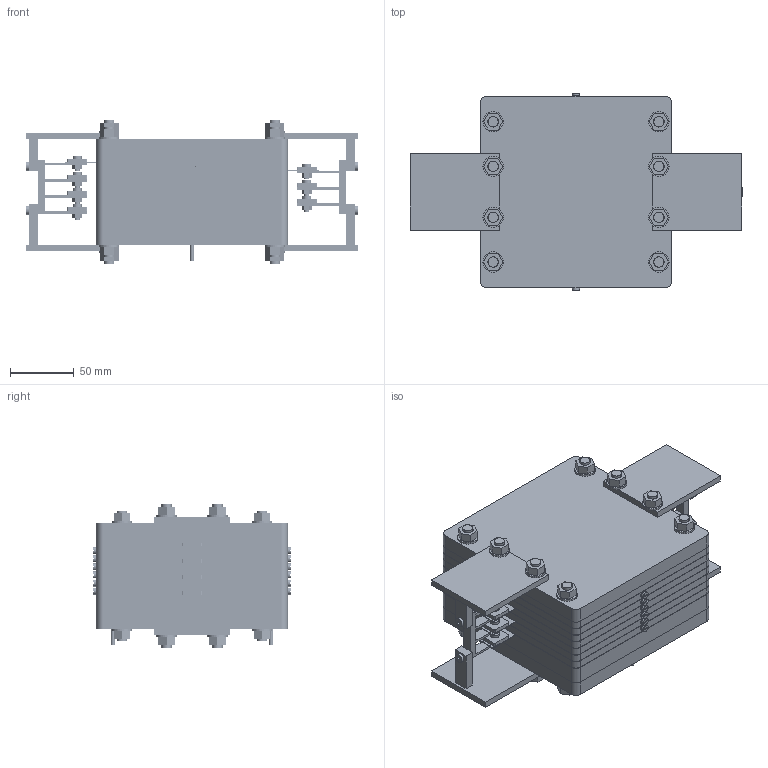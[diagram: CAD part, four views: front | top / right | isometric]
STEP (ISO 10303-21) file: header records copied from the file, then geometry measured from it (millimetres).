
FILE_DESCRIPTION(('FreeCAD Model'),'2;1');
FILE_NAME('Open CASCADE Shape Model','2026-10-30T14:49:04',('Author'),( ''),'Open CASCADE STEP processor 7.8','FreeCAD','Unknown');
FILE_SCHEMA(('AUTOMOTIVE_DESIGN { 1 0 10303 214 1 1 1 1 }'));
Length unit declared in the file: millimetre
Products named in the file (30): 7 片紧凑板框电堆 / Internal parallel manifolds; KP-201 | KP-201 | Front dry endplate with manifold tool access; KP-202 | KP-202 | Front manifold insulator; KS-102-COMP; KP-602 | KP-602 | Cathode precision-film carrier; KP-102 | KP-102 | Cathode electrode; KF-101 | KF-101 | Internal-manifold flow frame KF-101; KS-101-COMP; KH-901 | KH-901 | M4x0.7 nominal cross-drill plug; KH-902 | KH-902 | Cross-drill plug washer; KP-601 | KP-601 | Anode precision-film carrier; KP-101 | KP-101 | Anode electrode; KP-203 | KP-203 | Rear manifold insulator; KP-204 | KP-204 | Rear dry endplate; KB-801 | KB-801 | Front PEEK comb support bracket; KB-802 | KB-802 | Rear PEEK comb support bracket; KB-C7 | KB-C7 | Cathode negative-X copper comb busbar, 7 layers; KB-A7 | KB-A7 | Anode positive-X copper comb busbar, 7 layers; KP-301 | KP-301 | Electrode tab clamp jaw; STD-M4-S10 | STD-M4-S10 | STD-M4-S10; STD-M4-NUT | STD-M4-NUT | STD-M4-NUT; STD-M4-S12 | STD-M4-S12 | STD-M4-S12; STD-M8-ROD-7-PLATE | STD-M8-ROD-7-PLATE | STD-M8-ROD-7-PLATE; STD-M8-WASHER | STD-M8-WASHER | STD-M8-WASHER; STD-M8-NUT | STD-M8-NUT | STD-M8-NUT; STD-M8-ROD-7-SUPPORT | STD-M8-ROD-7-SUPPORT | STD-M8-ROD-7-SUPPORT; STD-LOCATOR-7 | STD-LOCATOR-7 | STD-LOCATOR-7; KP-501 | KP-501 | M6x1 bulkhead connector nut; KP-502 | KP-502 | Tube compression ferrule; KP-503 | KP-503 | Electrolyte tube stub
Assembly tree (167 placements, depth 2):
  7 片紧凑板框电堆 / Internal parallel manifolds
    KP-201 | KP-201 | Front dry endplate with manifold tool access
    KP-202 | KP-202 | Front manifold insulator
    KS-102-COMP  x28
    KP-602 | KP-602 | Cathode precision-film carrier  x4
    KP-102 | KP-102 | Cathode electrode  x4
    KF-101 | KF-101 | Internal-manifold flow frame KF-101  x6
    KS-101-COMP  x12
    KH-901 | KH-901 | M4x0.7 nominal cross-drill plug  x12
    KH-902 | KH-902 | Cross-drill plug washer  x12
    KP-601 | KP-601 | Anode precision-film carrier  x3
    KP-101 | KP-101 | Anode electrode  x3
    KP-203 | KP-203 | Rear manifold insulator
    KP-204 | KP-204 | Rear dry endplate
    KB-801 | KB-801 | Front PEEK comb support bracket  x2
    KB-802 | KB-802 | Rear PEEK comb support bracket  x2
    KB-C7 | KB-C7 | Cathode negative-X copper comb busbar, 7 layers
    KB-A7 | KB-A7 | Anode positive-X copper comb busbar, 7 layers
    KP-301 | KP-301 | Electrode tab clamp jaw  x7
    STD-M4-S10 | STD-M4-S10 | STD-M4-S10  x7
    STD-M4-NUT | STD-M4-NUT | STD-M4-NUT  x7
    STD-M4-S12 | STD-M4-S12 | STD-M4-S12  x4
    STD-M8-ROD-7-PLATE | STD-M8-ROD-7-PLATE | STD-M8-ROD-7-PLATE  x4
    STD-M8-WASHER | STD-M8-WASHER | STD-M8-WASHER  x16
    STD-M8-NUT | STD-M8-NUT | STD-M8-NUT  x16
    STD-M8-ROD-7-SUPPORT | STD-M8-ROD-7-SUPPORT | STD-M8-ROD-7-SUPPORT  x4
    STD-LOCATOR-7 | STD-LOCATOR-7 | STD-LOCATOR-7  x2
    KP-501 | KP-501 | M6x1 bulkhead connector nut  x2
    KP-502 | KP-502 | Tube compression ferrule  x2
    KP-503 | KP-503 | Electrolyte tube stub  x2
Bounding box: 260.4 x 154.6 x 112.65 mm (x, y, z)
Volume: 1876264.1 mm3; surface area: 929198.7 mm2
Topology: 167 solids, 167 shells, 2006 faces, 4702 edges, 3092 vertices
Faces by surface type: plane 1094, cylinder 788, revolution 76, extrusion 48
Full cylindrical faces by diameter (mm): 1.6 x2, 2.2 x26, 3 x6, 3.1 x2, 3.2 x28, 3.3 x28, 3.4 x4, 4 x11, 4.2 x19, 4.5 x25, 5.5 x24, 6 x16, 7 x11, 8 x38, 8.2 x16, 8.4 x16, 9 x146, 11.8 x28, 12 x2, 16 x16, 16.2 x28
Entity records: 16981 total; most frequent: DIRECTION 3030, CARTESIAN_POINT 2863, ORIENTED_EDGE 2422, EDGE_CURVE 1211, AXIS2_PLACEMENT_3D 1146, VERTEX_POINT 803, FACE_BOUND 758, EDGE_LOOP 758
